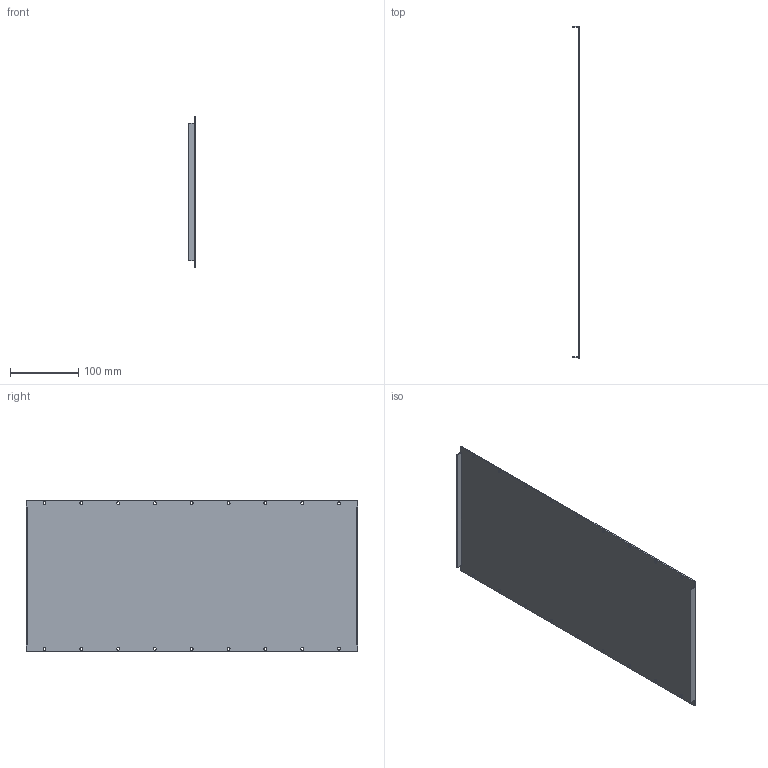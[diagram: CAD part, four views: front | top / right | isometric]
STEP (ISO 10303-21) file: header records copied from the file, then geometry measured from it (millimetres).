
FILE_DESCRIPTION(('CATIA V5 STEP Exchange'),'2;1');
FILE_NAME('C:\Users\Mike\Desktop\blank panels\9MU BLANK PANEL.stp','2018-03-03T21:32:52+00:00',('none'),('none'),'CATIA Version 5 Release 20 GA (IN-10)','CATIA V5 STEP AP214','none');
FILE_SCHEMA(('AUTOMOTIVE_DESIGN { 1 0 10303 214 1 1 1 1 }'));
Length unit declared in the file: millimetre
Products named in the file (1): 9MU BLANK PANEL
Bounding box: 10.16 x 485.77 x 222.25 mm (x, y, z)
Volume: 174870.2 mm3; surface area: 224742.5 mm2
Topology: 1 solids, 1 shells, 62 faces, 180 edges, 120 vertices
Faces by surface type: cylinder 38, plane 20, torus 4
Entity records: 2204 total; most frequent: CARTESIAN_POINT 621, ORIENTED_EDGE 360, DIRECTION 224, EDGE_CURVE 180, VERTEX_POINT 120, EDGE_LOOP 98, AXIS2_PLACEMENT_3D 92, VECTOR 92
